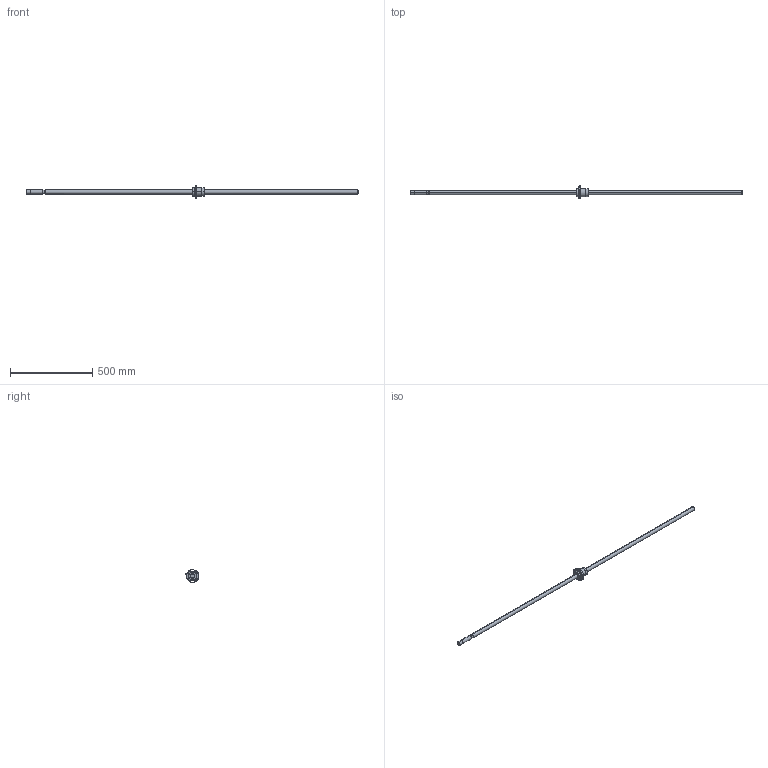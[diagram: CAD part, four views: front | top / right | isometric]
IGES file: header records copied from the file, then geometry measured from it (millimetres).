
Global section: file name: No Iges File Name specified; native system: AutoDesk Inventor R10; preprocessor: AutoDesk Inventor Iges Exporter R10; author: No Author specified; organization: No Organization specified; date: 20101224.134636; units: millimetre
Bounding box: 2015 x 83.6 x 76 mm (x, y, z)
Surface area: 185535 mm2 (no closed solid volume)
Topology: 0 solids, 0 shells, 80 faces, 488 edges, 484 vertices
Faces by surface type: bspline 80
